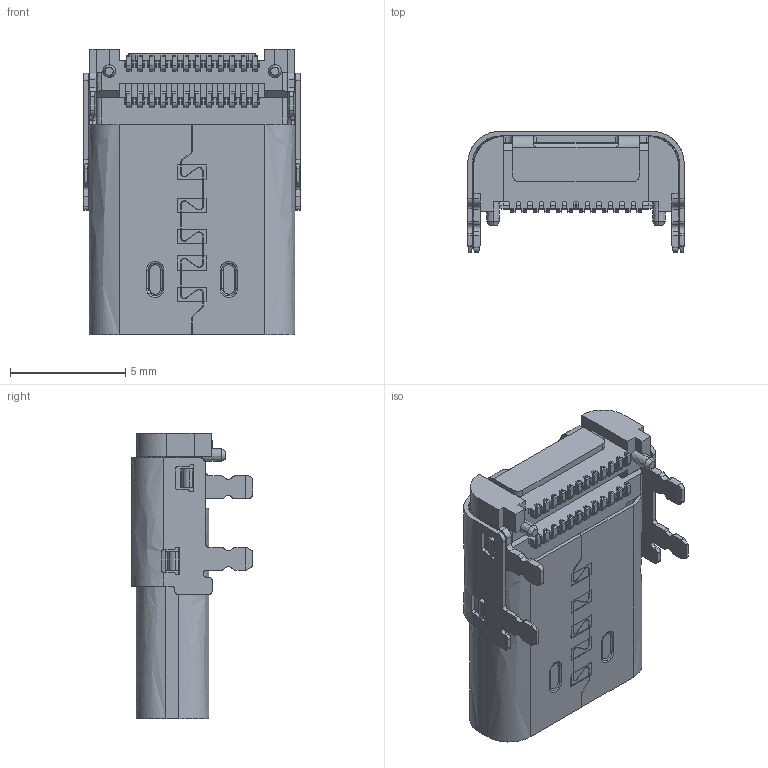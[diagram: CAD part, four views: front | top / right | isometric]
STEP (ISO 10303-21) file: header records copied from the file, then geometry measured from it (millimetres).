
FILE_DESCRIPTION (( 'STEP AP203' ), '1' );
FILE_NAME ('GT-USB-9068A.STEP', '2024-12-12T07:42:19', ( '' ), ( '' ), 'SwSTEP 2.0', 'SolidWorks 2023', '' );
FILE_SCHEMA (( 'CONFIG_CONTROL_DESIGN' ));
Products named in the file (1): GT-USB-9068A
Bounding box: 9.44 x 5.26 x 12.4 mm (x, y, z)
Surface area: 1534.1 mm2 (no closed solid volume)
Topology: 0 solids, 92 shells, 2261 faces, 7130 edges, 4762 vertices
Faces by surface type: bspline 2076, plane 185
Entity records: 80871 total; most frequent: CARTESIAN_POINT 38734, ORIENTED_EDGE 13160, EDGE_CURVE 7130, B_SPLINE_CURVE_WITH_KNOTS 5998, VERTEX_POINT 4762, EDGE_LOOP 2332, ADVANCED_FACE 2261, FACE_OUTER_BOUND 2261
